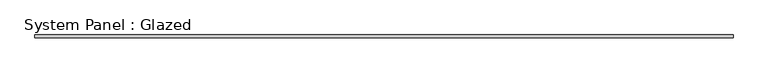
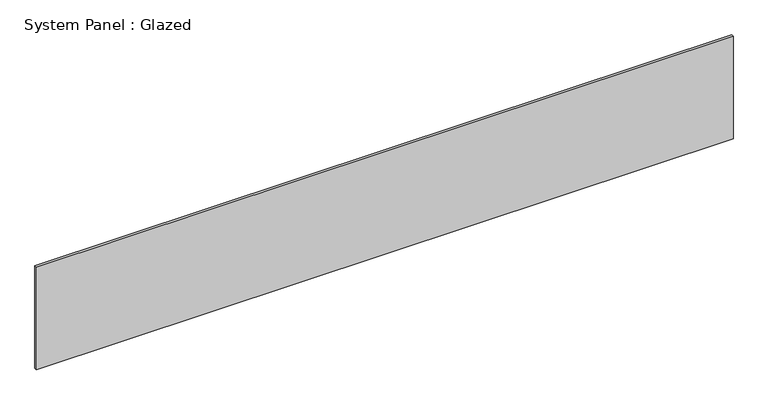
"""IFC4 building model written with IfcOpenShell, lengths in millimetres: plate geometry, System Panel : Glazed."""

from ifc_helpers import new_model, si_unit, origin, origin_with_axes, place, context, project, spatial, polyline, outline, extrude, source, transform, mapped, element, save


def system_panel_glazed_cf5a1381(model_context):
    return source(origin(), model_context, "Body", "SweptSolid", [
        extrude(outline(polyline([(3215.5450998, 24.5), (-3215.5450998, 24.5), (-3215.5450998, 49.5), (3215.5450998, 49.5), (3215.5450998, 24.5)])), origin_with_axes(), (0.0, 0.0, 1.0), 1000.0),
    ])


if __name__ == "__main__":
    model = new_model("IFC4")
    model_context = context("Model", 3, world=origin())
    ifc_project = project(units=[si_unit("LENGTHUNIT", "METRE", prefix="MILLI")], contexts=[model_context])
    site = spatial("IfcSite", under=ifc_project)
    building = spatial("IfcBuilding", under=site)
    placement = place(None, origin())
    system_panel_glazed_shape = system_panel_glazed_cf5a1381(model_context)
    element("IfcPlate", 1, ObjectType="System Panel : Glazed", at=placement, inside=building, context=model_context, shape_type="MappedRepresentation", body=[
        mapped(system_panel_glazed_shape, transform((0.0, 0.0, 0.0), x_axis=(1.0, 0.0, 0.0), y_axis=(0.0, 1.0, 0.0), z_axis=(0.0, 0.0, 1.0))),
    ])
    save(model, "model.ifc")
